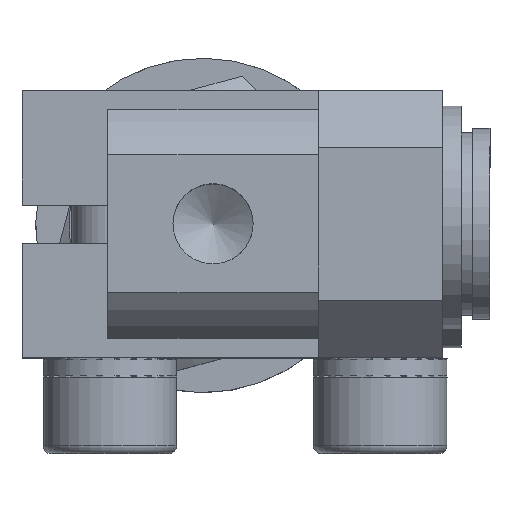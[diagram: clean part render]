
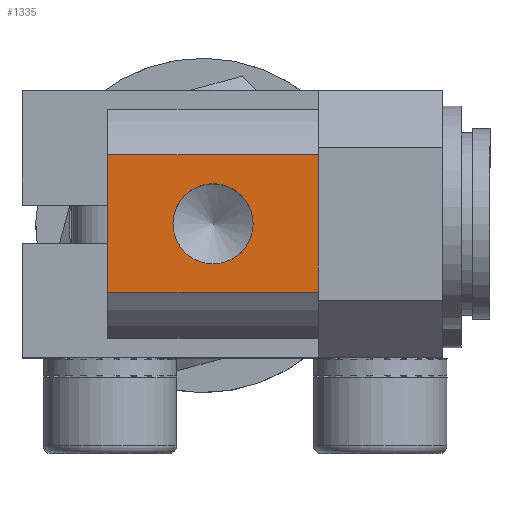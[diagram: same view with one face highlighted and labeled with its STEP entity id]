
A CAD part, top view. The second image highlights one B-rep face of the part: STEP entity #1335.
In plain terms, the highlighted planar face has unit normal (0, 0, 1) as drawn and (0, -1, 0) by its records, which use the part's own axes.
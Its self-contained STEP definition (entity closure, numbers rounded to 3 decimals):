
#1335=ADVANCED_FACE('',(#2562,#2563),#2564,.T.);
#2562=FACE_BOUND('',#3724,.T.);
#2563=FACE_OUTER_BOUND('',#3725,.T.);
#2564=PLANE('',#3726);
#3724=EDGE_LOOP('',(#6852));
#3725=EDGE_LOOP('',(#6853,#6854,#6855,#6856));
#3726=AXIS2_PLACEMENT_3D('',#6857,#6858,#6859);
#6852=ORIENTED_EDGE('',*,*,#8141,.T.);
#6853=ORIENTED_EDGE('',*,*,#8165,.F.);
#6854=ORIENTED_EDGE('',*,*,#8166,.T.);
#6855=ORIENTED_EDGE('',*,*,#8167,.T.);
#6856=ORIENTED_EDGE('',*,*,#8159,.T.);
#6857=CARTESIAN_POINT('',(-6.0,-6.0,5.5));
#6858=DIRECTION('',(0.0,-1.0,0.0));
#6859=DIRECTION('',(0.0,0.0,-1.0));
#8141=EDGE_CURVE('',#9960,#9960,#9961,.F.);
#8159=EDGE_CURVE('',#9986,#9991,#9993,.F.);
#8165=EDGE_CURVE('',#10000,#9991,#10001,.T.);
#8166=EDGE_CURVE('',#10000,#10002,#10003,.T.);
#8167=EDGE_CURVE('',#10002,#9986,#10004,.T.);
#9960=VERTEX_POINT('',#12610);
#9961=CIRCLE('',#12611,2.1);
#9986=VERTEX_POINT('',#12673);
#9991=VERTEX_POINT('',#12679);
#9993=LINE('',#12681,#12682);
#10000=VERTEX_POINT('',#12689);
#10001=LINE('',#12690,#12691);
#10002=VERTEX_POINT('',#12692);
#10003=LINE('',#12693,#12694);
#10004=LINE('',#12695,#12696);
#12610=CARTESIAN_POINT('',(0.,-6.0,-2.1));
#12611=AXIS2_PLACEMENT_3D('',#14164,#14165,#14166);
#12673=CARTESIAN_POINT('',(-3.606,-6.0,5.5));
#12679=CARTESIAN_POINT('',(-3.606,-6.0,-5.5));
#12681=CARTESIAN_POINT('',(-3.606,-6.0,-57.0));
#12682=VECTOR('',#14193,1.0);
#12689=CARTESIAN_POINT('',(3.606,-6.0,-5.5));
#12690=CARTESIAN_POINT('',(-6.0,-6.0,-5.5));
#12691=VECTOR('',#14200,1.0);
#12692=CARTESIAN_POINT('',(3.606,-6.0,5.5));
#12693=CARTESIAN_POINT('',(3.606,-6.0,-57.0));
#12694=VECTOR('',#14201,1.0);
#12695=CARTESIAN_POINT('',(-6.0,-6.0,5.5));
#12696=VECTOR('',#14202,1.0);
#14164=CARTESIAN_POINT('',(0.0,-6.0,0.));
#14165=DIRECTION('',(0.0,-1.0,0.0));
#14166=DIRECTION('',(0.0,0.0,-1.0));
#14193=DIRECTION('',(0.0,0.0,1.0));
#14200=DIRECTION('',(-1.0,0.0,0.0));
#14201=DIRECTION('',(0.0,0.0,1.0));
#14202=DIRECTION('',(-1.0,0.0,0.0));
